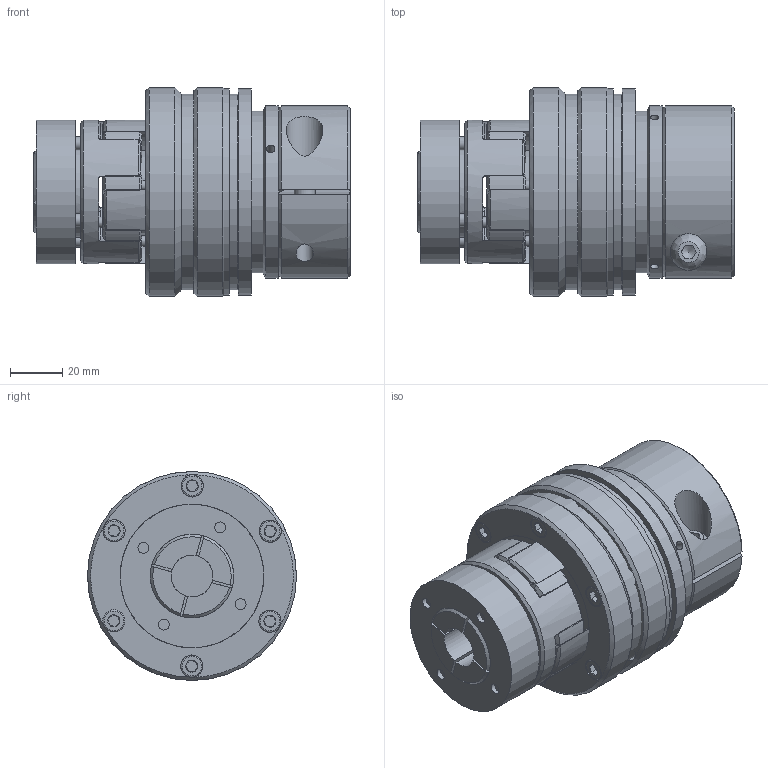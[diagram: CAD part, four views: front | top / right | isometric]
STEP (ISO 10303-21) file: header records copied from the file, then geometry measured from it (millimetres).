
FILE_DESCRIPTION( ( 'Unknown' ), '1' );
FILE_NAME( 'C:/Dokumente und Einstellungen/Sven/Desktop/hp kbk/E-AK/KBK EAK-24-106.stp', 'Unknown', ( 'Unknown' ), ( 'Unknown' ), 'XStep 1.0', 'Unknown', ' ' );
FILE_SCHEMA( ( 'automotive_design' ) );
Length unit declared in the file: millimetre
Products named in the file (19): Assem1; Assem2; Assem3; ball_bearing_-_6007_0_01; ball_bearing_-_6007_0_02; ball_bearing_-_6007_0_03; Zylinderschraube DIN 912_2; Stellring 60; Druckring 60; Flansch 60; a_35; Elastomerflansch 24; Zahnkranz_24_Standard; ISO EN DIN 4762_M5x20; KBE3-24_Druckring; KBK L-K-60 Grundkörper; Klemmnabe 60; schraube_iso_7380-m8x25-12_9; KBE3 C - 24 Nabe
Bounding box: 121.3 x 80 x 80 mm (x, y, z)
Volume: 714425.6 mm3; surface area: 280129.5 mm2
Topology: 44 solids, 44 shells, 1084 faces, 2398 edges, 1486 vertices
Faces by surface type: plane 354, cylinder 336, cone 327, torus 65, bspline 2
Full cylindrical faces by diameter (mm): 2.5 x4, 3.242 x6, 4 x22, 4.134 x16, 4.2 x8, 4.959 x8, 5 x13, 5.2 x12, 6.647 x2, 8 x2, 8.5 x27, 9.5 x8, 14 x2, 15 x2, 16 x2, 27 x4, 30 x4, 32 x2, 33 x2, 34.625 x2, 35 x7, 43.7 x6, 44 x2, 46 x4, 46.5 x2, 53.6 x6, 55 x6, 61.3 x2, 62 x7, 66 x2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
Entity records: 13137 total; most frequent: CARTESIAN_POINT 3044, DIRECTION 2146, ORIENTED_EDGE 1702, AXIS2_PLACEMENT_3D 990, EDGE_CURVE 851, EDGE_LOOP 682, VERTEX_POINT 592, FACE_OUTER_BOUND 554
